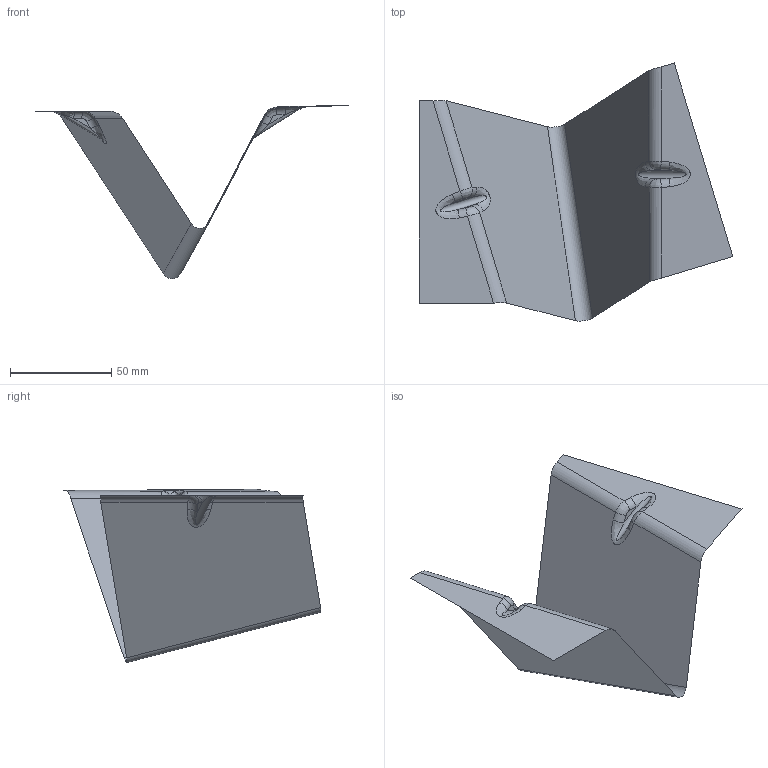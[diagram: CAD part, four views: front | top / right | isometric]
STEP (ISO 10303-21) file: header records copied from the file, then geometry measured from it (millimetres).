
FILE_DESCRIPTION(('CATIA V5 STEP Exchange'),'2;1');
FILE_NAME('C:\_Andres\UNIVERSIDAD\IQS\ASIGNATURAS\DAO\EXF\EXF-16172c\2inicio\Esteba_Torres_Ej03_v12.stp','2017-03-05T19:32:14+00:00',('none'),('none'),'CATIA Version 5-6 Release 2014 SP1 HF18','CATIA V5 STEP AP203','none');
FILE_SCHEMA(('CONFIG_CONTROL_DESIGN'));
Length unit declared in the file: millimetre
Products named in the file (1): Esteba_Torres_Ej03_v12
Bounding box: 154.99 x 127.46 x 85.6 mm (x, y, z)
Surface area: 22686.5 mm2 (no closed solid volume)
Topology: 0 solids, 1 shells, 31 faces, 78 edges, 48 vertices
Faces by surface type: cylinder 15, plane 8, bspline 8
Entity records: 2461 total; most frequent: CARTESIAN_POINT 1788, ORIENTED_EDGE 140, DIRECTION 90, EDGE_CURVE 78, VERTEX_POINT 48, VECTOR 40, LINE 40, ADVANCED_FACE 31
